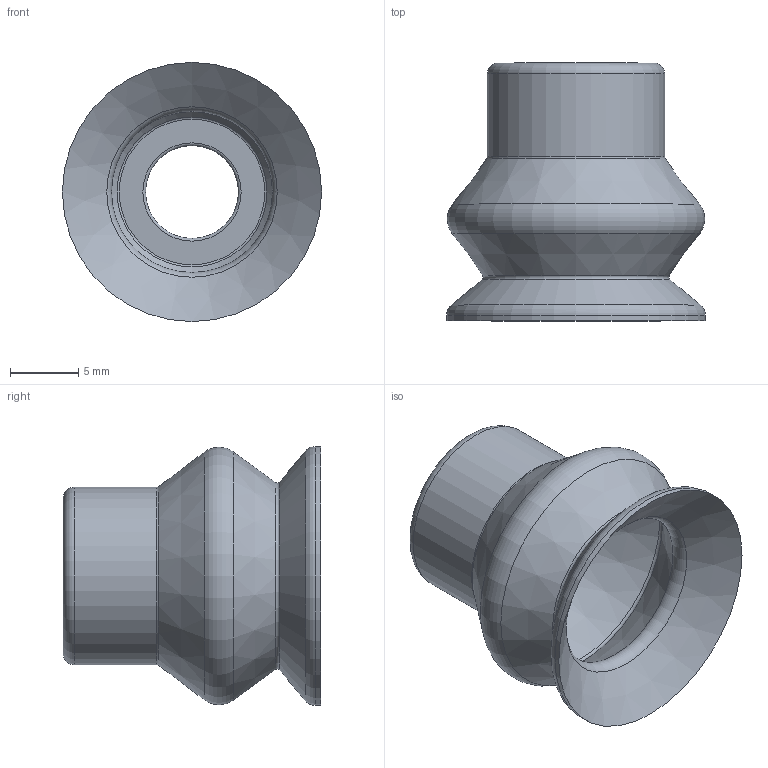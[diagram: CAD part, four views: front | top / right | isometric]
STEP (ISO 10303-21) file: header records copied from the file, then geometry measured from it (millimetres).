
FILE_DESCRIPTION (( 'STEP AP214' ), '1' );
FILE_NAME ('VCS 1 19A-B.STEP', '2024-10-08T12:46:52', ( '' ), ( '' ), 'SwSTEP 2.0', 'SolidWorks 2021', '' );
FILE_SCHEMA (( 'AUTOMOTIVE_DESIGN' ));
Length unit declared in the file: millimetre
Products named in the file (1): VCS 1 19A-B
Bounding box: 19 x 18.9 x 19 mm (x, y, z)
Volume: 1440 mm3; surface area: 2019.8 mm2
Topology: 1 solids, 1 shells, 20 faces, 38 edges, 20 vertices
Faces by surface type: torus 9, cone 6, cylinder 3, plane 2
Full cylindrical faces by diameter (mm): 6.8 x1, 13 x1, 19 x1
Entity records: 442 total; most frequent: DIRECTION 82, CARTESIAN_POINT 61, AXIS2_PLACEMENT_3D 41, ORIENTED_EDGE 40, EDGE_LOOP 40, FACE_OUTER_BOUND 32, EDGE_CURVE 20, CIRCLE 20
